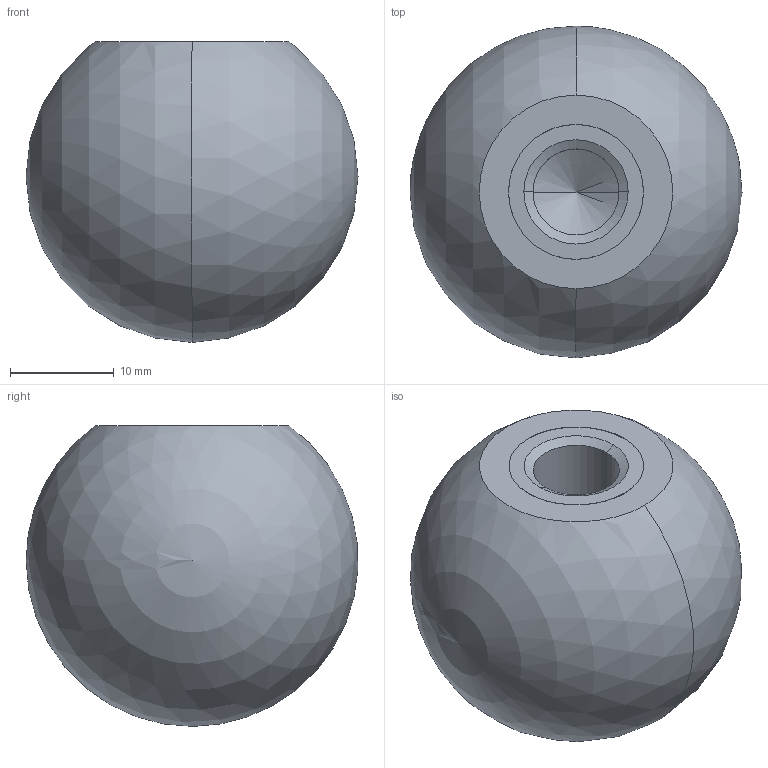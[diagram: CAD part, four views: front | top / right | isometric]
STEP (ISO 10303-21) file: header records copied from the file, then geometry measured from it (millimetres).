
FILE_DESCRIPTION (( 'STEP AP214' ), '1' );
FILE_NAME ('319-KT-32-M10-E.step', '2023-12-18T11:09:45', ( '' ), ( '' ), 'SwSTEP 2.0', 'SolidWorks 2022', '' );
FILE_SCHEMA (( 'AUTOMOTIVE_DESIGN' ));
Length unit declared in the file: millimetre
Products named in the file (1): 319-KT-32-M10-E
Bounding box: 32 x 31.97 x 29 mm (x, y, z)
Volume: 16141 mm3; surface area: 3450 mm2
Topology: 1 solids, 1 shells, 15 faces, 35 edges, 21 vertices
Faces by surface type: cylinder 6, cone 4, plane 3, sphere 2
Entity records: 517 total; most frequent: DIRECTION 78, CARTESIAN_POINT 62, ORIENTED_EDGE 56, AXIS2_PLACEMENT_3D 34, EDGE_CURVE 28, VERTEX_POINT 18, CIRCLE 18, EDGE_LOOP 18
